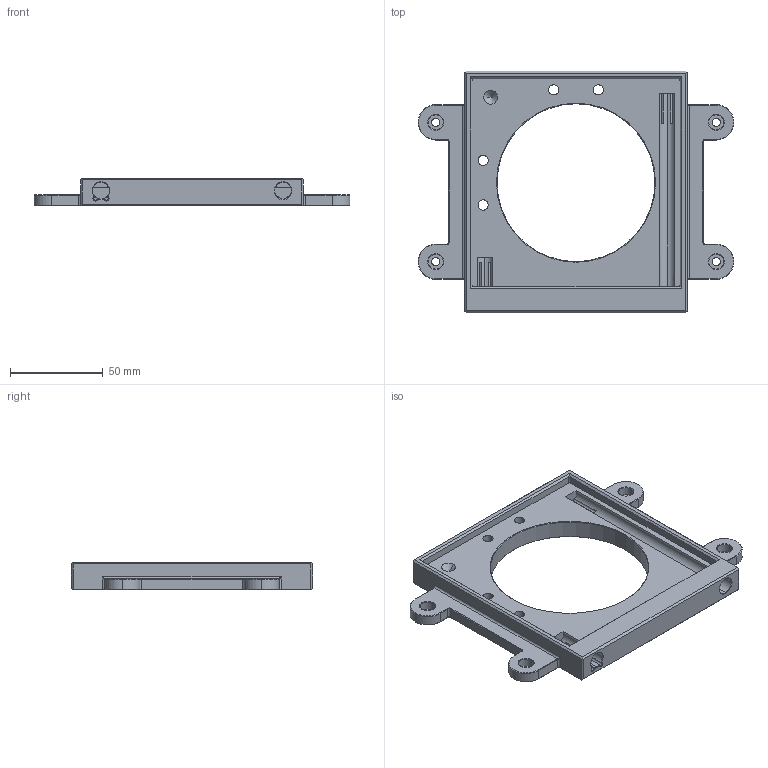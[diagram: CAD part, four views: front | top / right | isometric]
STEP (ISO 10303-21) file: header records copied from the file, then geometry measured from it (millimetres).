
FILE_DESCRIPTION (( 'STEP AP203' ), '1' );
FILE_NAME ('三英寸定板第一版.STEP', '2026-10-09T06:10:53', ( '' ), ( '' ), 'SwSTEP 2.0', 'SolidWorks 2024', '' );
FILE_SCHEMA (( 'CONFIG_CONTROL_DESIGN' ));
Length unit declared in the file: millimetre
Products named in the file (1): 三英寸定板第一版
Bounding box: 170 x 130 x 15 mm (x, y, z)
Volume: 119843.5 mm3; surface area: 40907.2 mm2
Topology: 1 solids, 1 shells, 230 faces, 589 edges, 355 vertices
Faces by surface type: plane 101, cylinder 63, cone 62, bspline 4
Entity records: 7498 total; most frequent: CARTESIAN_POINT 1789, DIRECTION 1207, ORIENTED_EDGE 1166, EDGE_CURVE 583, AXIS2_PLACEMENT_3D 437, VERTEX_POINT 355, VECTOR 333, LINE 333
